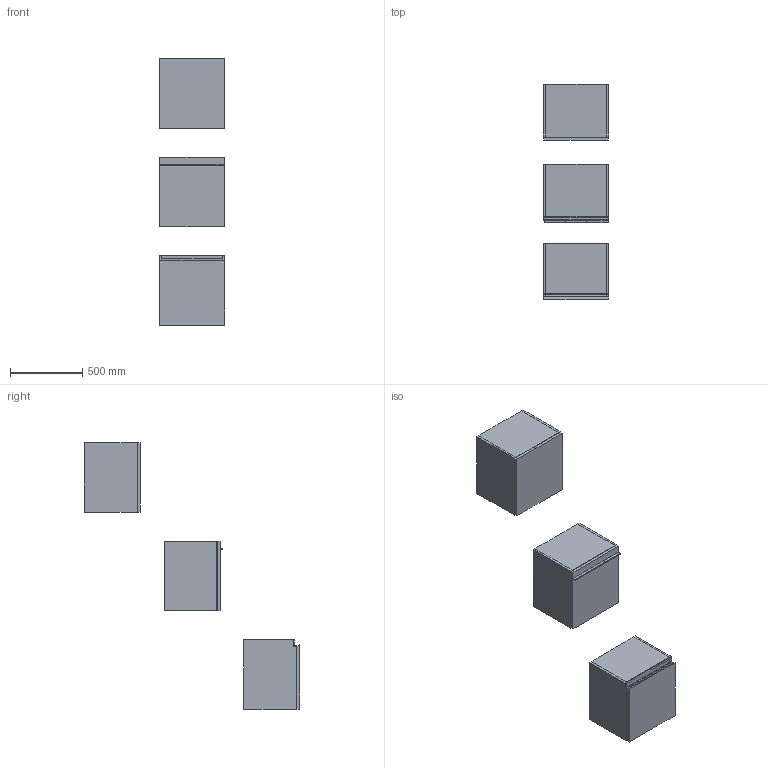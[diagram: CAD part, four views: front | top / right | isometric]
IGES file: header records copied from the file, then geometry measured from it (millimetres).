
Start section: Data from Parasolid IGES Translator 19.0.9, Copyright(c) 2006 Siemens PL M Software. All Rights Reserved.
Global section: file name: noorth-SI-H 48 D 38,8 W 45_8402.igs; native system: By Siemens PLM Incorporated; preprocessor: XPlus GENERIC/IGES 19.0.9; author: Noname; organization: Noname; date: 20200601.102339; units: metre
Bounding box: 450 x 1485.1 x 1840.01 mm (x, y, z)
Volume: 44936884.8 mm3; surface area: 6797261.6 mm2
Topology: 20 solids, 20 shells, 178 faces, 382 edges, 234 vertices
Faces by surface type: plane 134, extrusion 16, bspline 16, cylinder 12
